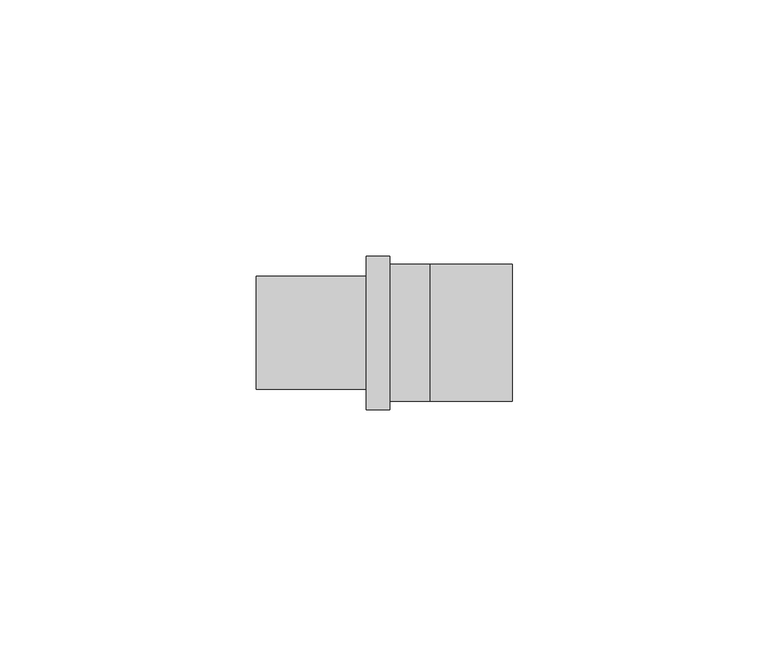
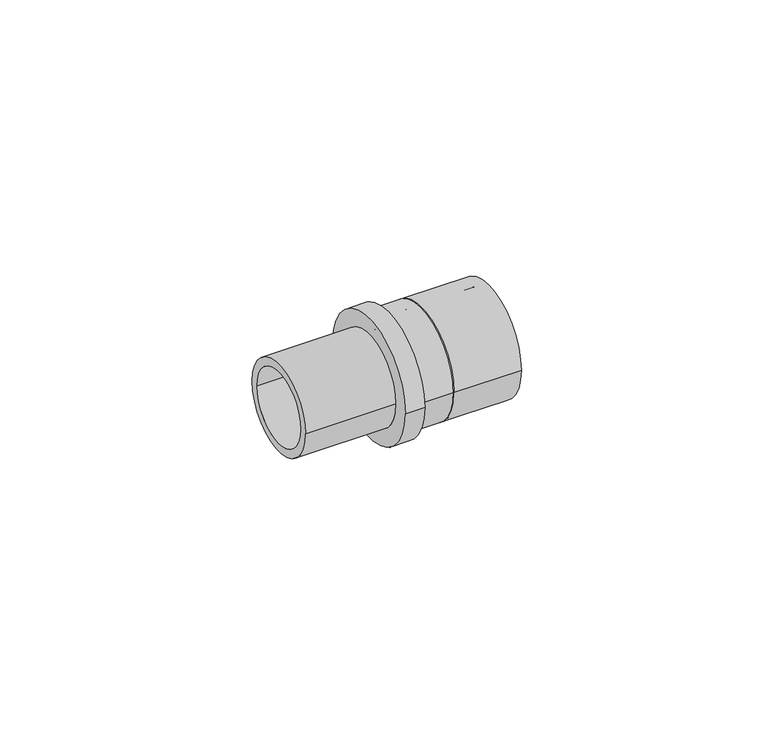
"""IFC4 building model written with IfcOpenShell, lengths in millimetres: pipe fitting geometry, Adapter with welding end : A welding LX."""

from ifc_helpers import new_model, si_unit, point, frame, origin, origin_2d, place, context, project, spatial, polyline, circle_curve, trimmed, segment, composite_curve, outline, extrude, source, transform, mapped, element, save
from ifc_brep_helpers import plane_surface, cylinder_surface, revolved_surface, advanced_brep


def pipe_fitting_5d65e2c7(model_context):
    return source(origin(), model_context, "Body", "SolidModel", [
        extrude(outline(composite_curve([segment(trimmed(circle_curve(origin_2d(), 13.4), [point((-13.4, 0.0))], [point((13.4, 0.0))], False, "CARTESIAN"), True, "CONTINUOUS"), segment(trimmed(circle_curve(origin_2d(), 13.4), [point((13.4, 0.0))], [point((-13.4, 0.0))], False, "CARTESIAN"), True, "CONTINUOUS")], self_intersect=False), holes=[composite_curve([segment(trimmed(circle_curve(origin_2d(), 10.95), [point((10.95, 0.0))], [point((-10.95, 0.0))], True, "CARTESIAN"), True, "CONTINUOUS"), segment(trimmed(circle_curve(origin_2d(), 10.95), [point((-10.95, 0.0))], [point((10.95, 0.0))], True, "CARTESIAN"), True, "CONTINUOUS")], self_intersect=False)]), frame((0.0, 0.0, 0.0), z_axis=(1.0, 0.0, 0.0), x_axis=(0.0, 1.0, 0.0)), (0.0, 0.0, 1.0), 16.0),
        advanced_brep(
        [(0.0, 13.4, 0.0), (0.0, -13.4, 0.0), (-7.9, -13.4, 0.0), (-7.9, 13.4, 0.0), (-7.9, 10.95, 0.0), (-7.9, -10.95, 0.0), (0.0, -10.95, 0.0), (0.0, 10.95, 0.0), (-34.0, 9.0, 0.0), (-34.0, -9.0, 0.0), (-7.9, -9.0, 0.0), (-7.9, 9.0, 0.0), (-12.5, 11.0, 0.0), (-12.5, -11.0, 0.0), (-34.0, -11.0, 0.0), (-34.0, 11.0, 0.0), (-7.9, 15.0, 0.0), (-7.9, -15.0, 0.0), (-12.5, -15.0, 0.0), (-12.5, 15.0, 0.0)],
        [
            (0, 1, circle_curve(frame((0.0, 0.0, 0.0), z_axis=(-1.0, 0.0, 0.0), x_axis=(0.0, -1.0, 0.0)), 13.4)),
            (1, 2),
            (2, 3, circle_curve(frame((-7.9, 0.0, 0.0), z_axis=(1.0, 0.0, 0.0), x_axis=(0.0, -1.0, 0.0)), 13.4)),
            (3, 0),
            (4, 5, circle_curve(frame((-7.9, 0.0, 0.0), z_axis=(-1.0, 0.0, 0.0), x_axis=(0.0, -1.0, 0.0)), 10.95)),
            (5, 6),
            (6, 7, circle_curve(frame((0.0, 0.0, 0.0), z_axis=(1.0, 0.0, 0.0), x_axis=(0.0, -1.0, 0.0)), 10.95)),
            (7, 4),
            (8, 9, circle_curve(frame((-34.0, 0.0, 0.0), z_axis=(-1.0, 0.0, 0.0), x_axis=(0.0, -1.0, 0.0)), 9.0)),
            (9, 10),
            (10, 11, circle_curve(frame((-7.9, 0.0, 0.0), z_axis=(1.0, 0.0, 0.0), x_axis=(0.0, -1.0, 0.0)), 9.0)),
            (11, 8),
            (12, 13, circle_curve(frame((-12.5, 0.0, 0.0), z_axis=(-1.0, 0.0, 0.0), x_axis=(0.0, -1.0, 0.0)), 11.0)),
            (13, 14),
            (14, 15, circle_curve(frame((-34.0, 0.0, 0.0), z_axis=(1.0, 0.0, 0.0), x_axis=(0.0, -1.0, 0.0)), 11.0)),
            (15, 12),
            (16, 17, circle_curve(frame((-7.9, 0.0, 0.0), z_axis=(-1.0, 0.0, 0.0), x_axis=(0.0, -1.0, 0.0)), 15.0)),
            (17, 18),
            (18, 19, circle_curve(frame((-12.5, 0.0, 0.0), z_axis=(1.0, 0.0, 0.0), x_axis=(0.0, -1.0, 0.0)), 15.0)),
            (19, 16),
            (16, 17, circle_curve(frame((-7.9, 0.0, 0.0), z_axis=(1.0, 0.0, 0.0), x_axis=(0.0, 1.0, 0.0)), 15.0)),
            (2, 3, circle_curve(frame((-7.9, 0.0, 0.0), z_axis=(-1.0, 0.0, 0.0), x_axis=(0.0, 1.0, 0.0)), 13.4)),
            (1, 0, circle_curve(frame((0.0, 0.0, 0.0), z_axis=(-1.0, 0.0, 0.0), x_axis=(0.0, 1.0, 0.0)), 13.4)),
            (6, 7, circle_curve(frame((0.0, 0.0, 0.0), z_axis=(-1.0, 0.0, 0.0), x_axis=(0.0, 1.0, 0.0)), 10.95)),
            (5, 4, circle_curve(frame((-7.9, 0.0, 0.0), z_axis=(-1.0, 0.0, 0.0), x_axis=(0.0, 1.0, 0.0)), 10.95)),
            (10, 11, circle_curve(frame((-7.9, 0.0, 0.0), z_axis=(-1.0, 0.0, 0.0), x_axis=(0.0, 1.0, 0.0)), 9.0)),
            (9, 8, circle_curve(frame((-34.0, 0.0, 0.0), z_axis=(-1.0, 0.0, 0.0), x_axis=(0.0, 1.0, 0.0)), 9.0)),
            (14, 15, circle_curve(frame((-34.0, 0.0, 0.0), z_axis=(-1.0, 0.0, 0.0), x_axis=(0.0, 1.0, 0.0)), 11.0)),
            (13, 12, circle_curve(frame((-12.5, 0.0, 0.0), z_axis=(-1.0, 0.0, 0.0), x_axis=(0.0, 1.0, 0.0)), 11.0)),
            (18, 19, circle_curve(frame((-12.5, 0.0, 0.0), z_axis=(-1.0, 0.0, 0.0), x_axis=(0.0, 1.0, 0.0)), 15.0)),
        ],
        [
            cylinder_surface(frame((0.0, 0.0, 0.0), z_axis=(1.0, 0.0, 0.0), x_axis=(0.0, -1.0, 0.0)), 13.4),
            revolved_surface(polyline([(0.0, -10.95, 0.0), (-7.9, -10.95, 0.0)]), (0.0, 0.0, 0.0), (1.0, 0.0, 0.0)),
            revolved_surface(polyline([(-7.9, -9.0, 0.0), (-34.0, -9.0, 0.0)]), (0.0, 0.0, 0.0), (1.0, 0.0, 0.0)),
            cylinder_surface(frame((0.0, 0.0, 0.0), z_axis=(1.0, 0.0, 0.0), x_axis=(0.0, -1.0, 0.0)), 11.0),
            cylinder_surface(frame((0.0, 0.0, 0.0), z_axis=(1.0, 0.0, 0.0), x_axis=(0.0, -1.0, 0.0)), 15.0),
            plane_surface(frame((-7.9, 0.0, 0.0), z_axis=(1.0, 0.0, 0.0), x_axis=(0.0, 1.0, 0.0))),
            cylinder_surface(frame((0.0, 0.0, 0.0), z_axis=(1.0, 0.0, 0.0), x_axis=(0.0, 1.0, 0.0)), 13.4),
            plane_surface(frame((0.0, 0.0, 0.0), z_axis=(1.0, 0.0, 0.0), x_axis=(0.0, 1.0, 0.0))),
            revolved_surface(polyline([(0.0, 10.95, 0.0), (-7.9, 10.95, 0.0)]), (0.0, 0.0, 0.0), (1.0, 0.0, 0.0)),
            revolved_surface(polyline([(-7.9, 9.0, 0.0), (-34.0, 9.0, 0.0)]), (0.0, 0.0, 0.0), (1.0, 0.0, 0.0)),
            plane_surface(frame((-34.0, 0.0, 0.0), z_axis=(-1.0, 0.0, 0.0), x_axis=(0.0, 1.0, 0.0))),
            cylinder_surface(frame((0.0, 0.0, 0.0), z_axis=(1.0, 0.0, 0.0), x_axis=(0.0, 1.0, 0.0)), 11.0),
            plane_surface(frame((-12.5, 0.0, 0.0), z_axis=(-1.0, 0.0, 0.0), x_axis=(0.0, 1.0, 0.0))),
            cylinder_surface(frame((0.0, 0.0, 0.0), z_axis=(1.0, 0.0, 0.0), x_axis=(0.0, 1.0, 0.0)), 15.0),
        ],
        [
            (0, [[1, 2, 3, 4]]),
            (1, [[5, 6, 7, 8]]),
            (2, [[9, 10, 11, 12]]),
            (3, [[13, 14, 15, 16]]),
            (4, [[17, 18, 19, 20]]),
            (5, [[21, -17], [22, -3]]),
            (6, [[23, -4, -22, -2]]),
            (7, [[-23, -1], [24, -7]]),
            (8, [[25, -8, -24, -6]]),
            (5, [[-25, -5], [26, -11]]),
            (9, [[27, -12, -26, -10]]),
            (10, [[28, -15], [-27, -9]]),
            (11, [[29, -16, -28, -14]]),
            (12, [[30, -19], [-29, -13]]),
            (13, [[-21, -20, -30, -18]]),
        ],
    ),
    ])


if __name__ == "__main__":
    model = new_model("IFC4")
    model_context = context("Model", 3, world=origin())
    ifc_project = project(units=[si_unit("LENGTHUNIT", "METRE", prefix="MILLI")], contexts=[model_context])
    site = spatial("IfcSite", under=ifc_project)
    building = spatial("IfcBuilding", under=site)
    placement = place(None, origin())
    pipe_fitting_shape = pipe_fitting_5d65e2c7(model_context)
    element("IfcPipeFitting", 1, ObjectType="Adapter with welding end : A welding LX", at=placement, inside=building, context=model_context, shape_type="MappedRepresentation", body=[
        mapped(pipe_fitting_shape, transform((0.0, 0.0, 0.0), x_axis=(1.0, 0.0, 0.0), y_axis=(0.0, 1.0, 0.0), z_axis=(0.0, 0.0, 1.0))),
    ])
    save(model, "model.ifc")
